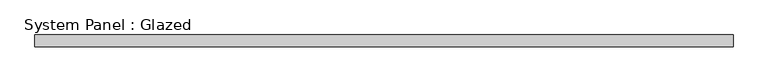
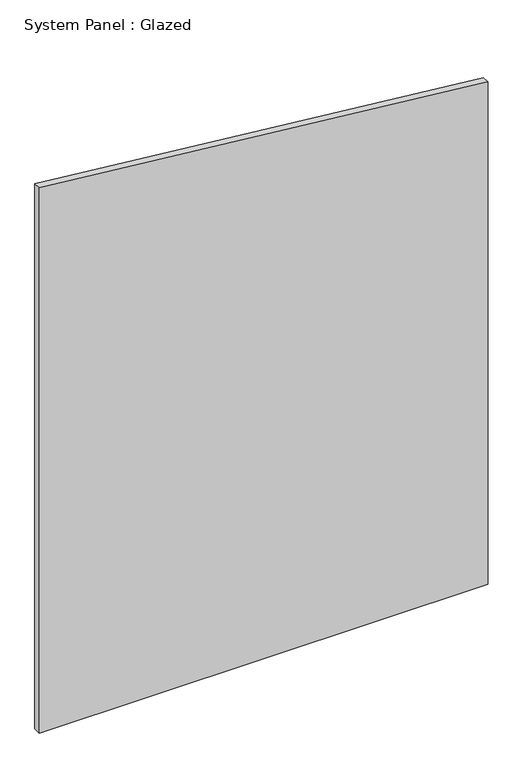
"""IFC4 building model written with IfcOpenShell, lengths in millimetres: plate geometry, System Panel : Glazed."""

from ifc_helpers import new_model, si_unit, frame, origin, place, context, project, spatial, polyline, outline, extrude, source, transform, mapped, element, save


def system_panel_glazed_71ceceaf(model_context):
    return source(origin(), model_context, "Body", "SweptSolid", [
        extrude(outline(polyline([(0.0, -735.8695652), (0.0, 735.8695652), (1741.6593098, 735.8695652), (1889.6422886, -735.8695652), (0.0, -735.8695652)])), frame((0.0, 24.5, 0.0), z_axis=(0.0, 1.0, 0.0), x_axis=(0.0, 0.0, 1.0)), (0.0, 0.0, 1.0), 25.0),
    ])


if __name__ == "__main__":
    model = new_model("IFC4")
    model_context = context("Model", 3, world=origin())
    ifc_project = project(units=[si_unit("LENGTHUNIT", "METRE", prefix="MILLI")], contexts=[model_context])
    site = spatial("IfcSite", under=ifc_project)
    building = spatial("IfcBuilding", under=site)
    placement = place(None, origin())
    system_panel_glazed_shape = system_panel_glazed_71ceceaf(model_context)
    element("IfcPlate", 1, ObjectType="System Panel : Glazed", at=placement, inside=building, context=model_context, shape_type="MappedRepresentation", body=[
        mapped(system_panel_glazed_shape, transform((0.0, 0.0, 0.0), x_axis=(1.0, 0.0, 0.0), y_axis=(0.0, 1.0, 0.0), z_axis=(0.0, 0.0, 1.0))),
    ])
    save(model, "model.ifc")
